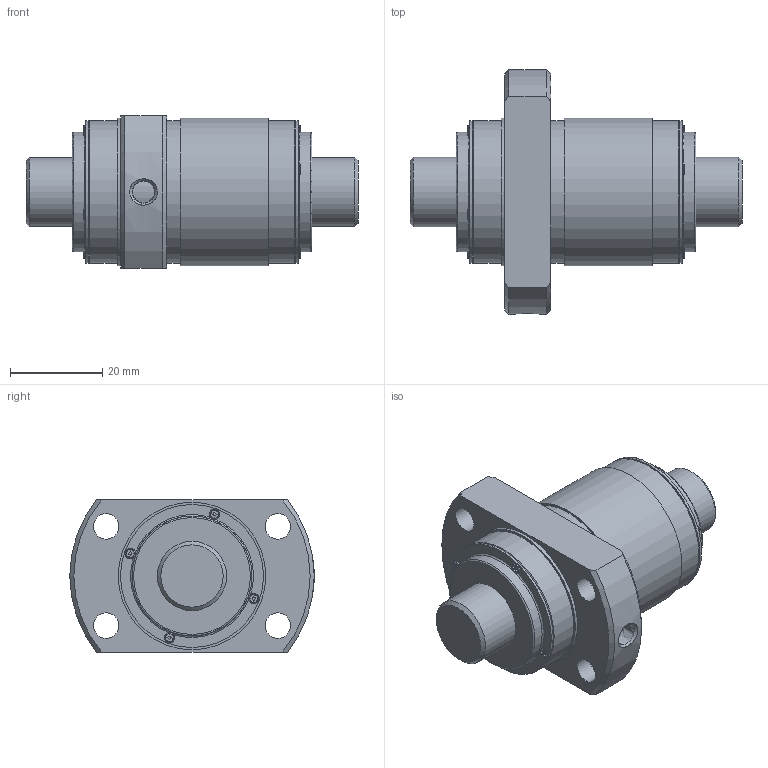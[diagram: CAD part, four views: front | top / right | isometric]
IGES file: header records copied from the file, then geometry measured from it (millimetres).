
Start section: Data from Parasolid IGES Translator 26.0.171, Copyright(c) 2006 Siemens PLM Software. All Rights Reserved.
Global section: file name: WTF1520-6ZZ+72LC7T_000_rev.igs; native system: By Siemens PLM Incorporated; preprocessor: XPlus GENERIC/IGES 26.0.171; author: Noname; organization: Noname; date: 20250611.063852; units: millimetre
Bounding box: 72 x 53 x 33 mm (x, y, z)
Surface area: 15505.7 mm2 (no closed solid volume)
Topology: 0 solids, 0 shells, 214 faces, 1134 edges, 1071 vertices
Faces by surface type: extrusion 127, revolution 87
